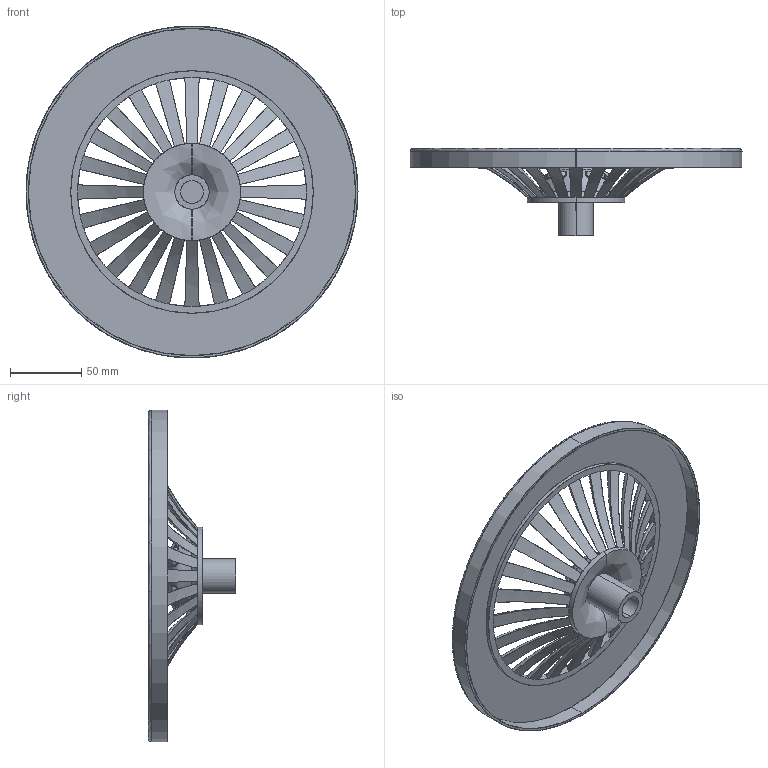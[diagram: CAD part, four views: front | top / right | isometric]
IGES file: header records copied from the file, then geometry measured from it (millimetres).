
Start section: SolidWorks IGES FILE using analytic representation for surfaces
Global section: file name: Y:\CONTENTCENTRAL\24 branch\cache\24DEFAU06072003211525.igs; native system: SolidWorks 2003 by SolidWorks Corporation; preprocessor: Version 5.3; author: partstream; date: 030607.212342; units: millimetre
Bounding box: 232.31 x 61 x 232.31 mm (x, y, z)
Surface area: 106425.1 mm2 (no closed solid volume)
Topology: 0 solids, 0 shells, 130 faces, 3378 edges, 3356 vertices
Faces by surface type: bspline 86, revolution 44
